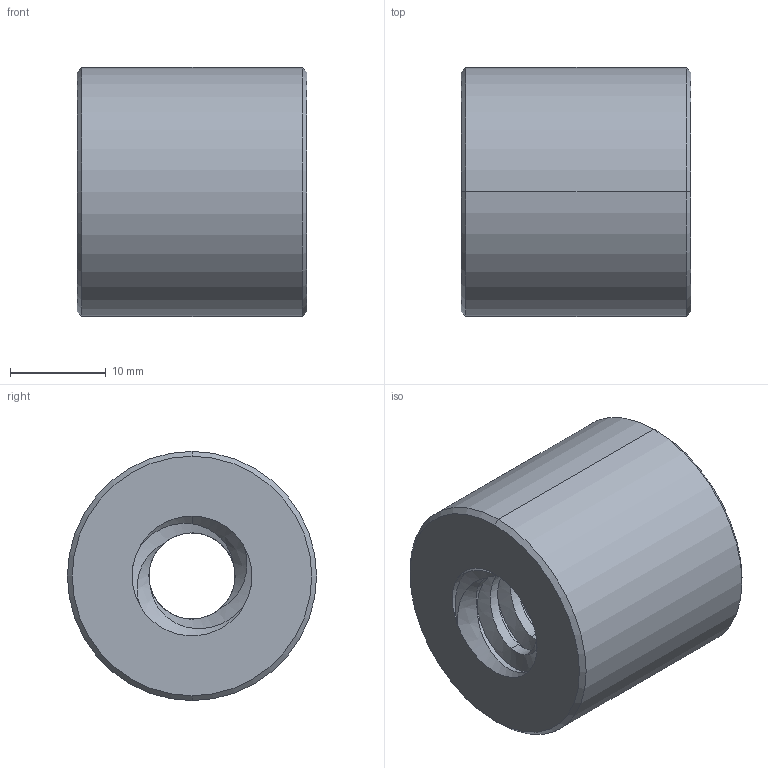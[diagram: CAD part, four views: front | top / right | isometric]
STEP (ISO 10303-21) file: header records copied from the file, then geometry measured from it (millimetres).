
FILE_DESCRIPTION((''),'2;1');
FILE_NAME('711-012-6005_PRT','2024-03-23T',('Brieden'),('ib-brieden'),'PRO/ENGINEER BY PARAMETRIC TECHNOLOGY CORPORATION, 2010160','PRO/ENGINEER BY PARAMETRIC TECHNOLOGY CORPORATION, 2010160','');
FILE_SCHEMA(('AUTOMOTIVE_DESIGN { 1 0 10303 214 1 1 1 1 }'));
Length unit declared in the file: millimetre
Products named in the file (1): 711-012-6005_PRT
Bounding box: 24 x 26 x 26 mm (x, y, z)
Volume: 10483.8 mm3; surface area: 4256.8 mm2
Topology: 1 solids, 1 shells, 40 faces, 98 edges, 60 vertices
Faces by surface type: cylinder 16, bspline 12, cone 10, plane 2
Entity records: 3915 total; most frequent: CARTESIAN_POINT 3042, ORIENTED_EDGE 196, DIRECTION 118, EDGE_CURVE 98, VERTEX_POINT 60, B_SPLINE_CURVE_WITH_KNOTS 54, AXIS2_PLACEMENT_3D 46, EDGE_LOOP 42
